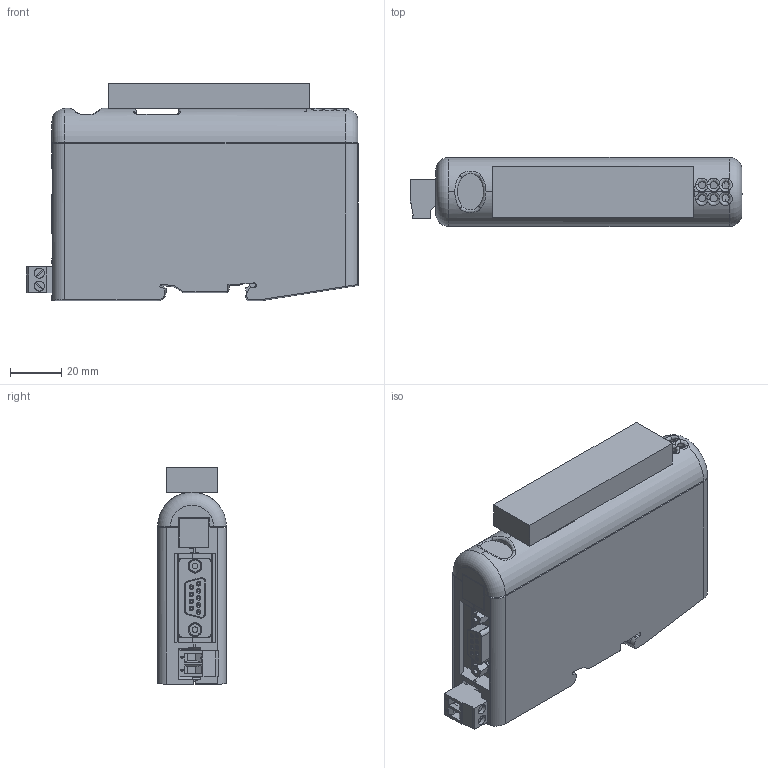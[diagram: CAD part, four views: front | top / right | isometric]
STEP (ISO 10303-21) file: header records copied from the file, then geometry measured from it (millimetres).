
FILE_DESCRIPTION (( 'STEP AP214' ), '1' );
FILE_NAME ('ABC Communicator RS232 422 485.STEP', '2011-07-07T13:20:41', ( '' ), ( '' ), 'SwSTEP 2.0', 'SolidWorks 2010', '' );
FILE_SCHEMA (( 'AUTOMOTIVE_DESIGN' ));
Length unit declared in the file: millimetre
Products named in the file (1): ABC Communicator RS232 422 485
Bounding box: 130.16 x 27 x 85.45 mm (x, y, z)
Volume: 81438.2 mm3; surface area: 81023.6 mm2
Topology: 14 solids, 16 shells, 2455 faces, 6572 edges, 4289 vertices
Faces by surface type: plane 1460, bspline 414, cylinder 323, cone 193, torus 65
Entity records: 143669 total; most frequent: CARTESIAN_POINT 63218, ORIENTED_EDGE 13144, DIRECTION 10370, EDGE_CURVE 6572, VERTEX_POINT 4289, VECTOR 4282, LINE 4282, AXIS2_PLACEMENT_3D 3044
